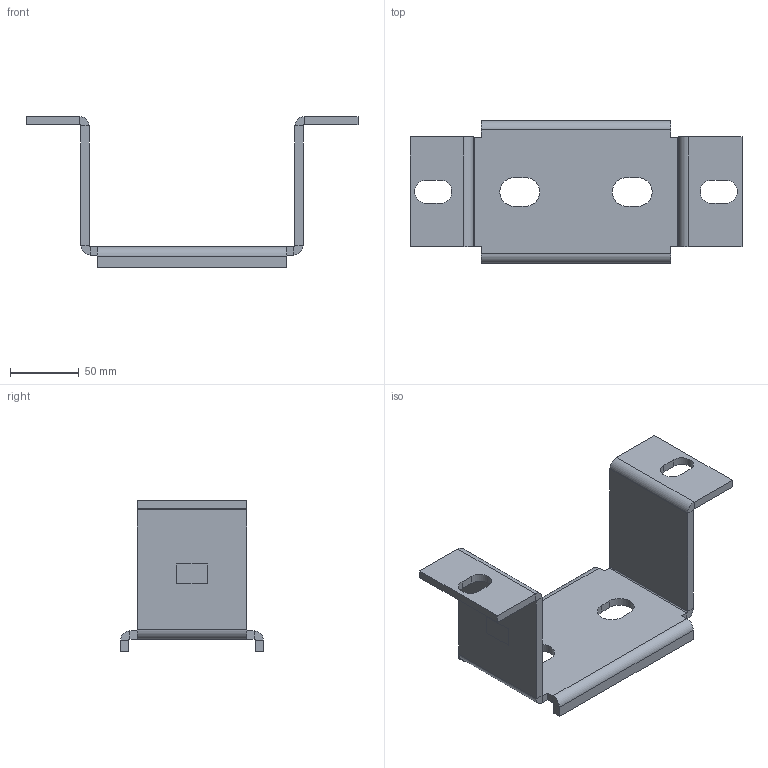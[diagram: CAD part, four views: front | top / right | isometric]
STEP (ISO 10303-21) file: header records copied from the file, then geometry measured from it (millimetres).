
FILE_DESCRIPTION(/* description */ ('Deckenkonsole Nr. 3, 2-fach'),/* implementation_level */ '2;1');
FILE_NAME(/* name */ 'Q:\sge-ma\Produktmanagement-STB\STB\Workspace\TraceParts\Deckenkonsole\010335832.stp',/* time_stamp */ '2018-02-20T13:49:49+01:00',/* author */ ('avschreier'),/* organization */ (''),/* preprocessor_version */ 'ST-DEVELOPER v16.1',/* originating_system */ 'Autodesk Inventor 2016',/* authorisation */ '');
FILE_SCHEMA (('CONFIG_CONTROL_DESIGN'));
Length unit declared in the file: millimetre
Products named in the file (1): 010335832
Bounding box: 242 x 104 x 110 mm (x, y, z)
Volume: 225364.4 mm3; surface area: 83518.4 mm2
Topology: 1 solids, 1 shells, 83 faces, 192 edges, 112 vertices
Faces by surface type: plane 63, cylinder 20
Entity records: 2334 total; most frequent: DIRECTION 400, CARTESIAN_POINT 388, ORIENTED_EDGE 384, EDGE_CURVE 192, LINE 152, VECTOR 152, AXIS2_PLACEMENT_3D 124, VERTEX_POINT 112
